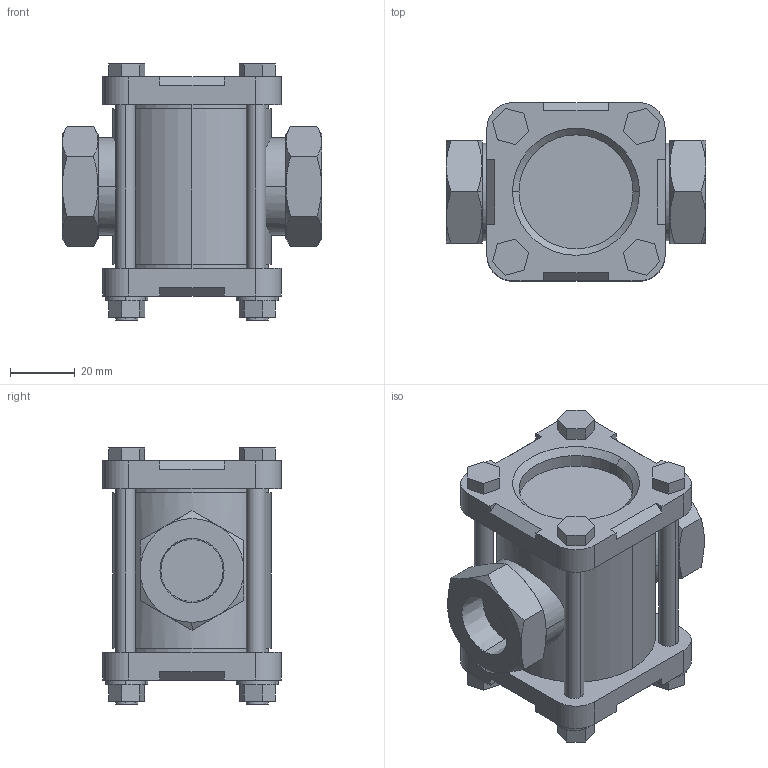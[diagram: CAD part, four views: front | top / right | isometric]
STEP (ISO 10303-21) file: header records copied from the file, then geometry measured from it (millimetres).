
FILE_DESCRIPTION (( 'STEP AP203' ), '1' );
FILE_NAME ('SF-1S 15A.STEP', '2024-09-05T08:57:33', ( '' ), ( '' ), 'SwSTEP 2.0', 'SolidWorks 2024', '' );
FILE_SCHEMA (( 'CONFIG_CONTROL_DESIGN' ));
Length unit declared in the file: millimetre
Products named in the file (1): SF-1S 15A
Bounding box: 80 x 55 x 79 mm (x, y, z)
Volume: 164017.3 mm3; surface area: 32155.5 mm2
Topology: 1 solids, 1 shells, 212 faces, 514 edges, 328 vertices
Faces by surface type: plane 126, cylinder 50, cone 36
Entity records: 6635 total; most frequent: CARTESIAN_POINT 1555, DIRECTION 1028, ORIENTED_EDGE 1028, EDGE_CURVE 514, AXIS2_PLACEMENT_3D 353, VERTEX_POINT 328, LINE 322, VECTOR 322
